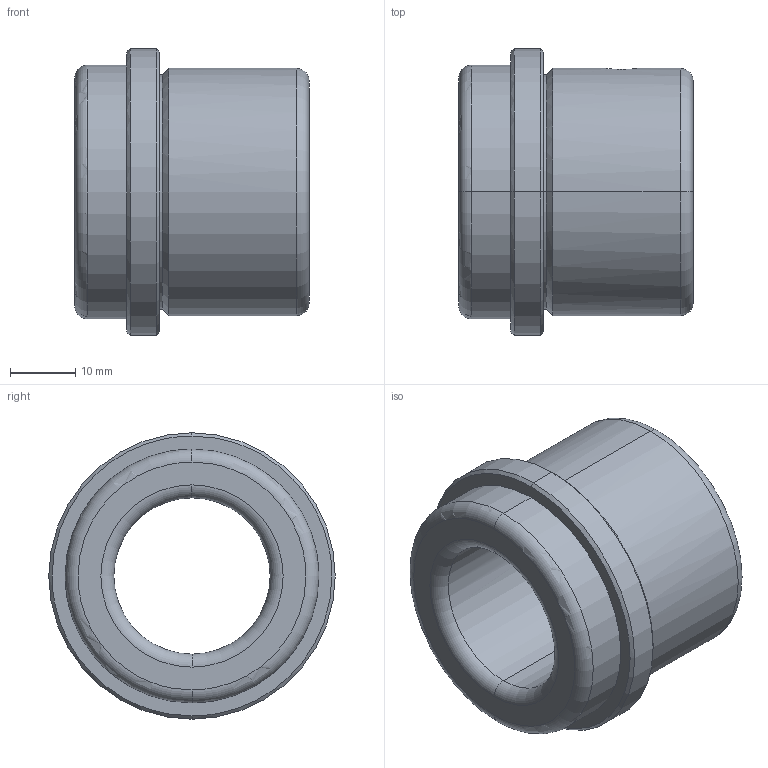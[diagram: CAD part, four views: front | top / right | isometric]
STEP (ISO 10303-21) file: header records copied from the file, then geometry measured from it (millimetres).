
FILE_DESCRIPTION(('CATIA V5 STEP Exchange'),'2;1');
FILE_NAME('C:\Users\Utente\Desktop\IO LAVORO\3D X SITO CF\X SITO\CF 631\CF 631 24 x 36.stp','2020-12-26T19:20:49+00:00',('none'),('none'),'CATIA Version 5 Release 20 GA (IN-10)','CATIA V5 STEP AP203','none');
FILE_SCHEMA(('CONFIG_CONTROL_DESIGN'));
Length unit declared in the file: millimetre
Products named in the file (1): CF 631 24 x 36
Bounding box: 36 x 44 x 44 mm (x, y, z)
Volume: 26113.7 mm3; surface area: 9243.9 mm2
Topology: 1 solids, 1 shells, 33 faces, 106 edges, 78 vertices
Faces by surface type: cylinder 12, torus 8, cone 8, plane 5
Entity records: 1429 total; most frequent: CARTESIAN_POINT 453, ORIENTED_EDGE 212, DIRECTION 156, EDGE_CURVE 106, AXIS2_PLACEMENT_3D 104, VERTEX_POINT 78, CIRCLE 70, EDGE_LOOP 40
